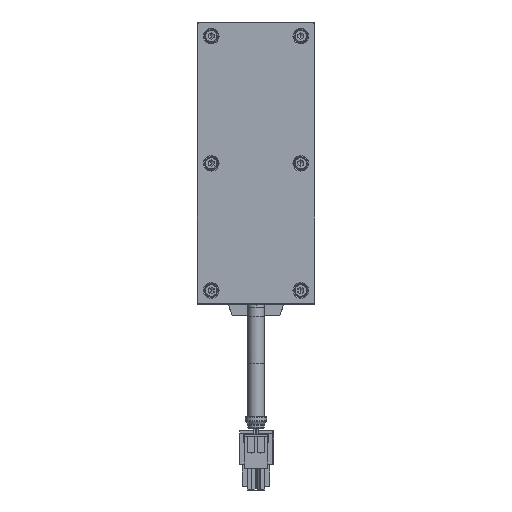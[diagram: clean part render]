
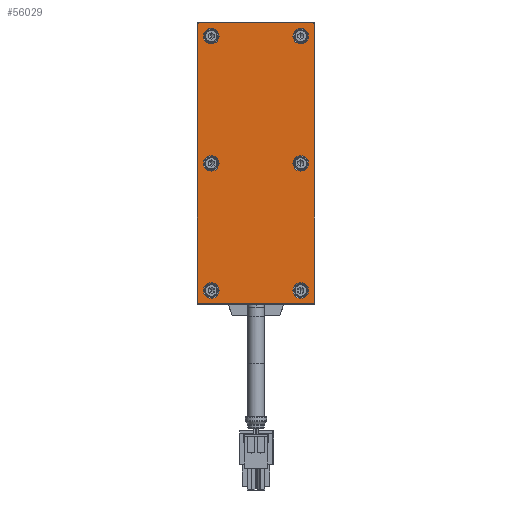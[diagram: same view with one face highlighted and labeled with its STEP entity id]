
A CAD part, front view. The second image highlights one B-rep face of the part: STEP entity #56029.
In plain terms, the highlighted planar face has unit normal (0, -1, 0).
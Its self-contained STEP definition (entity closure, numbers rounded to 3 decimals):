
#54618=CARTESIAN_POINT('',(59.,-4.5,-24.));
#54619=DIRECTION('',(0.,-1.,0.));
#54620=DIRECTION('',(0.,0.,-1.));
#54621=AXIS2_PLACEMENT_3D('',#54618,#54619,#54620);
#54623=DIRECTION('',(1.,0.,0.));
#54624=VECTOR('',#54623,118.);
#54625=CARTESIAN_POINT('',(-59.,-4.5,
-24.7));
#54626=LINE('',#54625,#54624);
#54627=CARTESIAN_POINT('',(-59.,-4.5,-24.));
#54628=DIRECTION('',(0.,-1.,0.));
#54629=DIRECTION('',(-1.,0.,0.));
#54630=AXIS2_PLACEMENT_3D('',#54627,#54628,#54629);
#54632=DIRECTION('',(0.,0.,-1.));
#54633=VECTOR('',#54632,48.);
#54634=CARTESIAN_POINT('',(-59.7,-4.5,
24.));
#54635=LINE('',#54634,#54633);
#54636=CARTESIAN_POINT('',(-59.,-4.5,24.));
#54637=DIRECTION('',(0.,-1.,0.));
#54638=DIRECTION('',(0.,0.,1.));
#54639=AXIS2_PLACEMENT_3D('',#54636,#54637,#54638);
#54641=DIRECTION('',(-1.,0.,0.));
#54642=VECTOR('',#54641,118.);
#54643=CARTESIAN_POINT('',(59.,-4.5,
24.7));
#54644=LINE('',#54643,#54642);
#54645=CARTESIAN_POINT('',(59.,-4.5,24.));
#54646=DIRECTION('',(0.,-1.,0.));
#54647=DIRECTION('',(1.,0.,0.));
#54648=AXIS2_PLACEMENT_3D('',#54645,#54646,#54647);
#54650=DIRECTION('',(0.,0.,1.));
#54651=VECTOR('',#54650,48.);
#54652=CARTESIAN_POINT('',(59.7,-4.5,
-24.));
#54653=LINE('',#54652,#54651);
#54654=CARTESIAN_POINT('',(-54.,-4.5,-19.));
#54655=DIRECTION('',(0.,1.,0.));
#54656=DIRECTION('',(1.,0.,0.));
#54657=AXIS2_PLACEMENT_3D('',#54654,#54655,#54656);
#54659=CARTESIAN_POINT('',(-54.,-4.5,-19.));
#54660=DIRECTION('',(0.,1.,0.));
#54661=DIRECTION('',(-1.,0.,0.));
#54662=AXIS2_PLACEMENT_3D('',#54659,#54660,#54661);
#54664=CARTESIAN_POINT('',(0.,-4.5,-19.));
#54665=DIRECTION('',(0.,1.,0.));
#54666=DIRECTION('',(1.,0.,0.));
#54667=AXIS2_PLACEMENT_3D('',#54664,#54665,#54666);
#54669=CARTESIAN_POINT('',(0.,-4.5,-19.));
#54670=DIRECTION('',(0.,1.,0.));
#54671=DIRECTION('',(-1.,0.,0.));
#54672=AXIS2_PLACEMENT_3D('',#54669,#54670,#54671);
#54674=CARTESIAN_POINT('',(54.,-4.5,-19.));
#54675=DIRECTION('',(0.,1.,0.));
#54676=DIRECTION('',(1.,0.,0.));
#54677=AXIS2_PLACEMENT_3D('',#54674,#54675,#54676);
#54679=CARTESIAN_POINT('',(54.,-4.5,-19.));
#54680=DIRECTION('',(0.,1.,0.));
#54681=DIRECTION('',(-1.,0.,0.));
#54682=AXIS2_PLACEMENT_3D('',#54679,#54680,#54681);
#54684=CARTESIAN_POINT('',(54.,-4.5,19.));
#54685=DIRECTION('',(0.,1.,0.));
#54686=DIRECTION('',(1.,0.,0.));
#54687=AXIS2_PLACEMENT_3D('',#54684,#54685,#54686);
#54689=CARTESIAN_POINT('',(54.,-4.5,19.));
#54690=DIRECTION('',(0.,1.,0.));
#54691=DIRECTION('',(-1.,0.,0.));
#54692=AXIS2_PLACEMENT_3D('',#54689,#54690,#54691);
#54694=CARTESIAN_POINT('',(0.,-4.5,19.));
#54695=DIRECTION('',(0.,1.,0.));
#54696=DIRECTION('',(1.,0.,0.));
#54697=AXIS2_PLACEMENT_3D('',#54694,#54695,#54696);
#54699=CARTESIAN_POINT('',(0.,-4.5,19.));
#54700=DIRECTION('',(0.,1.,0.));
#54701=DIRECTION('',(-1.,0.,0.));
#54702=AXIS2_PLACEMENT_3D('',#54699,#54700,#54701);
#54704=CARTESIAN_POINT('',(-54.,-4.5,19.));
#54705=DIRECTION('',(0.,1.,0.));
#54706=DIRECTION('',(1.,0.,0.));
#54707=AXIS2_PLACEMENT_3D('',#54704,#54705,#54706);
#54709=CARTESIAN_POINT('',(-54.,-4.5,19.));
#54710=DIRECTION('',(0.,1.,0.));
#54711=DIRECTION('',(-1.,0.,0.));
#54712=AXIS2_PLACEMENT_3D('',#54709,#54710,#54711);
#55770=CARTESIAN_POINT('',(59.,-4.5,-24.7));
#55771=CARTESIAN_POINT('',(59.7,-4.5,-24.));
#55772=VERTEX_POINT('',#55770);
#55773=VERTEX_POINT('',#55771);
#55778=CARTESIAN_POINT('',(59.7,-4.5,
24.));
#55779=VERTEX_POINT('',#55778);
#55782=CARTESIAN_POINT('',(59.,-4.5,24.7));
#55783=VERTEX_POINT('',#55782);
#55786=CARTESIAN_POINT('',(-59.,-4.5,
24.7));
#55787=VERTEX_POINT('',#55786);
#55790=CARTESIAN_POINT('',(-59.7,-4.5,24.));
#55791=VERTEX_POINT('',#55790);
#55794=CARTESIAN_POINT('',(-59.7,-4.5,
-24.));
#55795=VERTEX_POINT('',#55794);
#55798=CARTESIAN_POINT('',(-59.,-4.5,-24.7));
#55799=VERTEX_POINT('',#55798);
#55826=CARTESIAN_POINT('',(-50.7,-4.5,-19.));
#55827=CARTESIAN_POINT('',(-57.3,-4.5,-19.));
#55828=VERTEX_POINT('',#55826);
#55829=VERTEX_POINT('',#55827);
#55842=CARTESIAN_POINT('',(3.3,-4.5,-19.));
#55843=CARTESIAN_POINT('',(-3.3,-4.5,-19.));
#55844=VERTEX_POINT('',#55842);
#55845=VERTEX_POINT('',#55843);
#55866=CARTESIAN_POINT('',(57.3,-4.5,-19.));
#55867=CARTESIAN_POINT('',(50.7,-4.5,-19.));
#55868=VERTEX_POINT('',#55866);
#55869=VERTEX_POINT('',#55867);
#55882=CARTESIAN_POINT('',(57.3,-4.5,19.));
#55883=CARTESIAN_POINT('',(50.7,-4.5,19.));
#55884=VERTEX_POINT('',#55882);
#55885=VERTEX_POINT('',#55883);
#55890=CARTESIAN_POINT('',(3.3,-4.5,19.));
#55891=CARTESIAN_POINT('',(-3.3,-4.5,19.));
#55892=VERTEX_POINT('',#55890);
#55893=VERTEX_POINT('',#55891);
#55914=CARTESIAN_POINT('',(-50.7,-4.5,19.));
#55915=CARTESIAN_POINT('',(-57.3,-4.5,19.));
#55916=VERTEX_POINT('',#55914);
#55917=VERTEX_POINT('',#55915);
#55970=CARTESIAN_POINT('',(0.,-4.5,0.));
#55971=DIRECTION('',(0.,1.,0.));
#55972=DIRECTION('',(1.,0.,0.));
#55973=AXIS2_PLACEMENT_3D('',#55970,#55971,#55972);
#55974=PLANE('',#55973);
#55976=ORIENTED_EDGE('',*,*,#55975,.F.);
#55978=ORIENTED_EDGE('',*,*,#55977,.F.);
#55980=ORIENTED_EDGE('',*,*,#55979,.F.);
#55982=ORIENTED_EDGE('',*,*,#55981,.F.);
#55984=ORIENTED_EDGE('',*,*,#55983,.F.);
#55986=ORIENTED_EDGE('',*,*,#55985,.F.);
#55988=ORIENTED_EDGE('',*,*,#55987,.F.);
#55990=ORIENTED_EDGE('',*,*,#55989,.F.);
#55991=EDGE_LOOP('',(#55976,#55978,#55980,#55982,#55984,#55986,#55988,#55990));
#55992=FACE_OUTER_BOUND('',#55991,.F.);
#55994=ORIENTED_EDGE('',*,*,#55993,.F.);
#55996=ORIENTED_EDGE('',*,*,#55995,.F.);
#55997=EDGE_LOOP('',(#55994,#55996));
#55998=FACE_BOUND('',#55997,.F.);
#56000=ORIENTED_EDGE('',*,*,#55999,.F.);
#56002=ORIENTED_EDGE('',*,*,#56001,.F.);
#56003=EDGE_LOOP('',(#56000,#56002));
#56004=FACE_BOUND('',#56003,.F.);
#56006=ORIENTED_EDGE('',*,*,#56005,.F.);
#56008=ORIENTED_EDGE('',*,*,#56007,.F.);
#56009=EDGE_LOOP('',(#56006,#56008));
#56010=FACE_BOUND('',#56009,.F.);
#56012=ORIENTED_EDGE('',*,*,#56011,.F.);
#56014=ORIENTED_EDGE('',*,*,#56013,.F.);
#56015=EDGE_LOOP('',(#56012,#56014));
#56016=FACE_BOUND('',#56015,.F.);
#56018=ORIENTED_EDGE('',*,*,#56017,.F.);
#56020=ORIENTED_EDGE('',*,*,#56019,.F.);
#56021=EDGE_LOOP('',(#56018,#56020));
#56022=FACE_BOUND('',#56021,.F.);
#56024=ORIENTED_EDGE('',*,*,#56023,.F.);
#56026=ORIENTED_EDGE('',*,*,#56025,.F.);
#56027=EDGE_LOOP('',(#56024,#56026));
#56028=FACE_BOUND('',#56027,.F.);
#56029=ADVANCED_FACE('',(#55992,#55998,#56004,#56010,#56016,#56022,#56028),
#55974,.F.);
#54622=CIRCLE('',#54621,0.7);
#54631=CIRCLE('',#54630,0.7);
#54640=CIRCLE('',#54639,0.7);
#54649=CIRCLE('',#54648,0.7);
#54658=CIRCLE('',#54657,3.3);
#54663=CIRCLE('',#54662,3.3);
#54668=CIRCLE('',#54667,3.3);
#54673=CIRCLE('',#54672,3.3);
#54678=CIRCLE('',#54677,3.3);
#54683=CIRCLE('',#54682,3.3);
#54688=CIRCLE('',#54687,3.3);
#54693=CIRCLE('',#54692,3.3);
#54698=CIRCLE('',#54697,3.3);
#54703=CIRCLE('',#54702,3.3);
#54708=CIRCLE('',#54707,3.3);
#54713=CIRCLE('',#54712,3.3);
#55975=EDGE_CURVE('',#55772,#55773,#54622,.T.);
#55977=EDGE_CURVE('',#55799,#55772,#54626,.T.);
#55979=EDGE_CURVE('',#55795,#55799,#54631,.T.);
#55981=EDGE_CURVE('',#55791,#55795,#54635,.T.);
#55983=EDGE_CURVE('',#55787,#55791,#54640,.T.);
#55985=EDGE_CURVE('',#55783,#55787,#54644,.T.);
#55987=EDGE_CURVE('',#55779,#55783,#54649,.T.);
#55989=EDGE_CURVE('',#55773,#55779,#54653,.T.);
#55993=EDGE_CURVE('',#55828,#55829,#54658,.T.);
#55995=EDGE_CURVE('',#55829,#55828,#54663,.T.);
#55999=EDGE_CURVE('',#55844,#55845,#54668,.T.);
#56001=EDGE_CURVE('',#55845,#55844,#54673,.T.);
#56005=EDGE_CURVE('',#55868,#55869,#54678,.T.);
#56007=EDGE_CURVE('',#55869,#55868,#54683,.T.);
#56011=EDGE_CURVE('',#55884,#55885,#54688,.T.);
#56013=EDGE_CURVE('',#55885,#55884,#54693,.T.);
#56017=EDGE_CURVE('',#55892,#55893,#54698,.T.);
#56019=EDGE_CURVE('',#55893,#55892,#54703,.T.);
#56023=EDGE_CURVE('',#55916,#55917,#54708,.T.);
#56025=EDGE_CURVE('',#55917,#55916,#54713,.T.);
